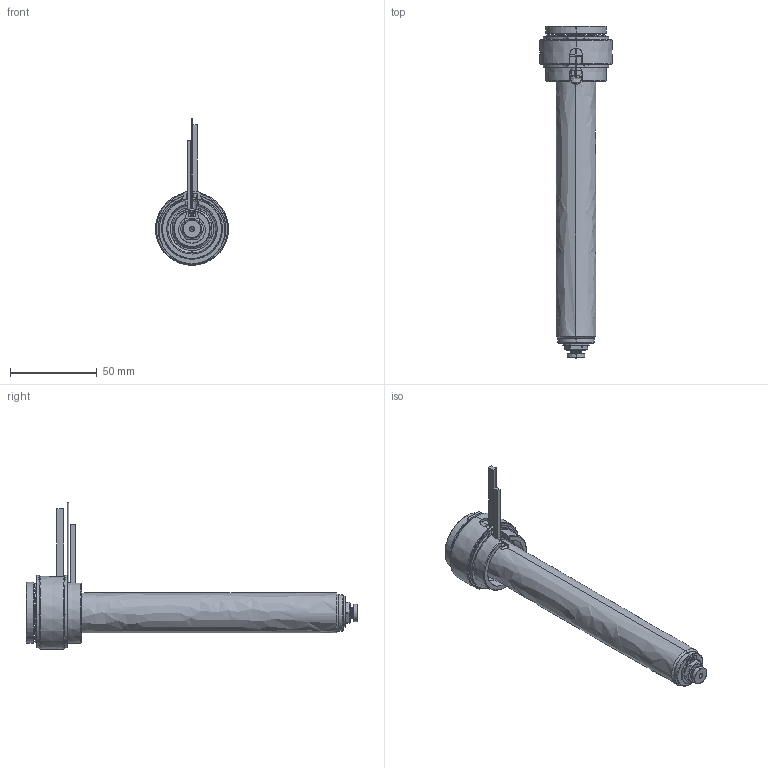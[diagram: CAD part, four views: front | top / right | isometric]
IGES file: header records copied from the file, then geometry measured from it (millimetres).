
Start section: SolidWorks IGES file using analytic representation for surfaces
Global section: file name: C:\Users\luca.EMPAD\Desktop\TEM\UGBE3504-S-A-5 [Ød-1.5 P-0 ØC-7.0].IGS; native system: SolidWorks 2012; preprocessor: SolidWorks 2012; author: luca; date: 120330.140622; units: millimetre
Bounding box: 42 x 191 x 84.4 mm (x, y, z)
Surface area: 35815.8 mm2 (no closed solid volume)
Topology: 0 solids, 0 shells, 187 faces, 3378 edges, 3378 vertices
Faces by surface type: revolution 120, bspline 67
